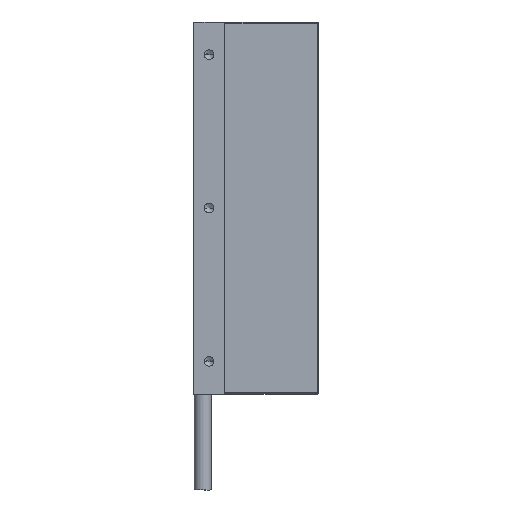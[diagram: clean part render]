
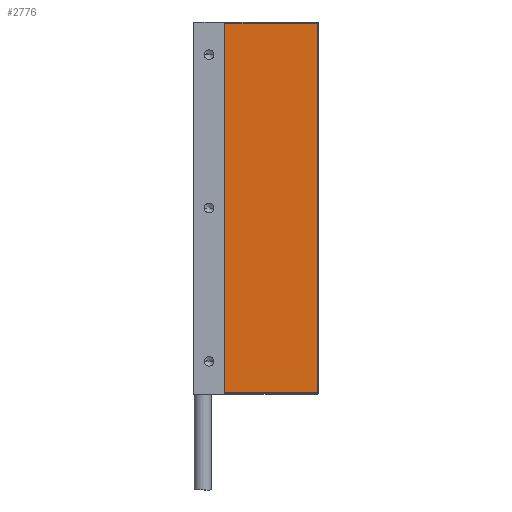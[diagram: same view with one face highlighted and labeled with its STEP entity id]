
A CAD part, left-side view. The second image highlights one B-rep face of the part: STEP entity #2776.
In plain terms, the highlighted planar face has unit normal (-1, 0, 0).
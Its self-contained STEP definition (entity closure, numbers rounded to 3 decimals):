
#68 = LINE ( 'NONE', #975, #3030 ) ;
#144 = CARTESIAN_POINT ( 'NONE',  ( 0., -48.178, 33.65 ) ) ;
#184 = ORIENTED_EDGE ( 'NONE', *, *, #2841, .T. ) ;
#340 = EDGE_CURVE ( 'NONE', #3893, #1355, #68, .T. ) ;
#668 = EDGE_CURVE ( 'NONE', #1355, #812, #785, .T. ) ;
#772 = CARTESIAN_POINT ( 'NONE',  ( 0., -48.178, 33.65 ) ) ;
#780 = ORIENTED_EDGE ( 'NONE', *, *, #340, .T. ) ;
#785 = LINE ( 'NONE', #5193, #2447 ) ;
#812 = VERTEX_POINT ( 'NONE', #1282 ) ;
#890 = PLANE ( 'NONE',  #4149 ) ;
#949 = FACE_OUTER_BOUND ( 'NONE', #2050, .T. ) ;
#975 = CARTESIAN_POINT ( 'NONE',  ( 0., -48.178, 33.65 ) ) ;
#997 = VERTEX_POINT ( 'NONE', #3411 ) ;
#1020 = VECTOR ( 'NONE', #2195, 1000. ) ;
#1079 = LINE ( 'NONE', #2671, #1020 ) ;
#1282 = CARTESIAN_POINT ( 'NONE',  ( 0., 48.178, 36.65 ) ) ;
#1300 = CARTESIAN_POINT ( 'NONE',  ( 0., -48.5, 33.65 ) ) ;
#1355 = VERTEX_POINT ( 'NONE', #5091 ) ;
#1476 = LINE ( 'NONE', #4214, #5195 ) ;
#1705 = DIRECTION ( 'NONE',  ( 0., 0., 1. ) ) ;
#1869 = EDGE_CURVE ( 'NONE', #812, #5312, #1476, .T. ) ;
#1948 = DIRECTION ( 'NONE',  ( 0., 1., 0. ) ) ;
#2050 = EDGE_LOOP ( 'NONE', ( #5142, #5050, #184, #4171, #780 ) ) ;
#2173 = DIRECTION ( 'NONE',  ( 0., 0., -1. ) ) ;
#2195 = DIRECTION ( 'NONE',  ( 0., -1., 0. ) ) ;
#2294 = LINE ( 'NONE', #772, #3905 ) ;
#2308 = EDGE_CURVE ( 'NONE', #997, #3893, #2294, .T. ) ;
#2426 = DIRECTION ( 'NONE',  ( 0., 0., 1. ) ) ;
#2447 = VECTOR ( 'NONE', #1948, 1000. ) ;
#2671 = CARTESIAN_POINT ( 'NONE',  ( 0., -48.178, 12.4 ) ) ;
#2776 = ADVANCED_FACE ( 'NONE', ( #949 ), #890, .T. ) ;
#2841 = EDGE_CURVE ( 'NONE', #5312, #997, #1079, .T. ) ;
#3030 = VECTOR ( 'NONE', #3854, 1000. ) ;
#3411 = CARTESIAN_POINT ( 'NONE',  ( 0., -48.178, 12.4 ) ) ;
#3415 = CARTESIAN_POINT ( 'NONE',  ( 0., 48.178, 12.4 ) ) ;
#3854 = DIRECTION ( 'NONE',  ( 0., 0., 1. ) ) ;
#3893 = VERTEX_POINT ( 'NONE', #144 ) ;
#3905 = VECTOR ( 'NONE', #2426, 1000. ) ;
#4149 = AXIS2_PLACEMENT_3D ( 'NONE', #1300, #4162, #1705 ) ;
#4162 = DIRECTION ( 'NONE',  ( -1., 0., 0. ) ) ;
#4171 = ORIENTED_EDGE ( 'NONE', *, *, #2308, .T. ) ;
#4214 = CARTESIAN_POINT ( 'NONE',  ( 0., 48.178, 33.65 ) ) ;
#5050 = ORIENTED_EDGE ( 'NONE', *, *, #1869, .T. ) ;
#5091 = CARTESIAN_POINT ( 'NONE',  ( 0., -48.178, 36.65 ) ) ;
#5142 = ORIENTED_EDGE ( 'NONE', *, *, #668, .T. ) ;
#5193 = CARTESIAN_POINT ( 'NONE',  ( 0., 48.367, 36.65 ) ) ;
#5195 = VECTOR ( 'NONE', #2173, 1000. ) ;
#5312 = VERTEX_POINT ( 'NONE', #3415 ) ;
